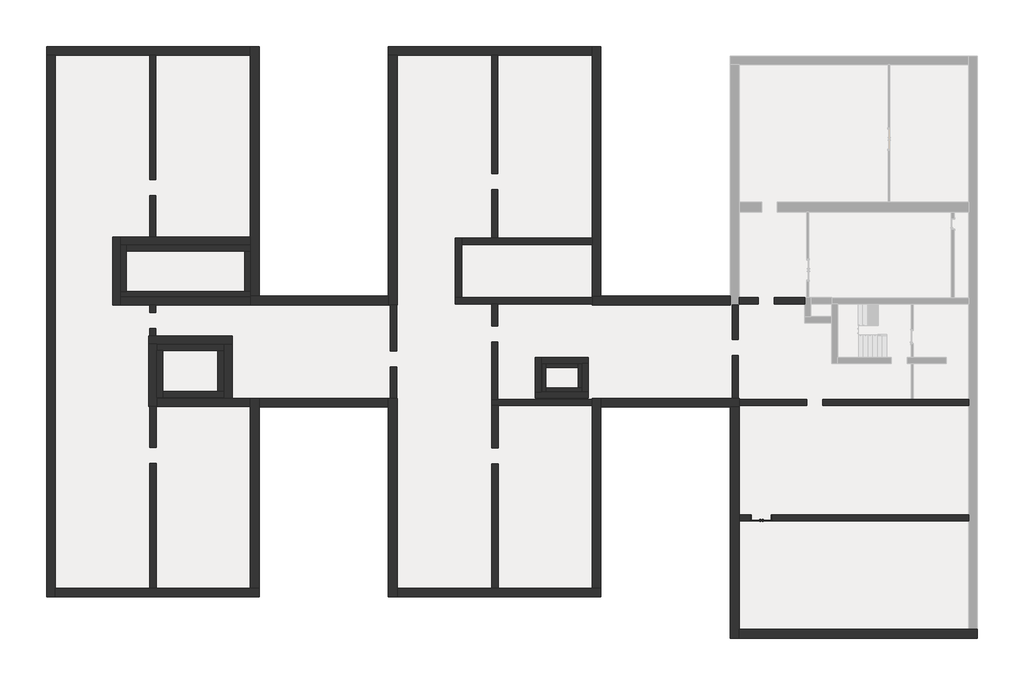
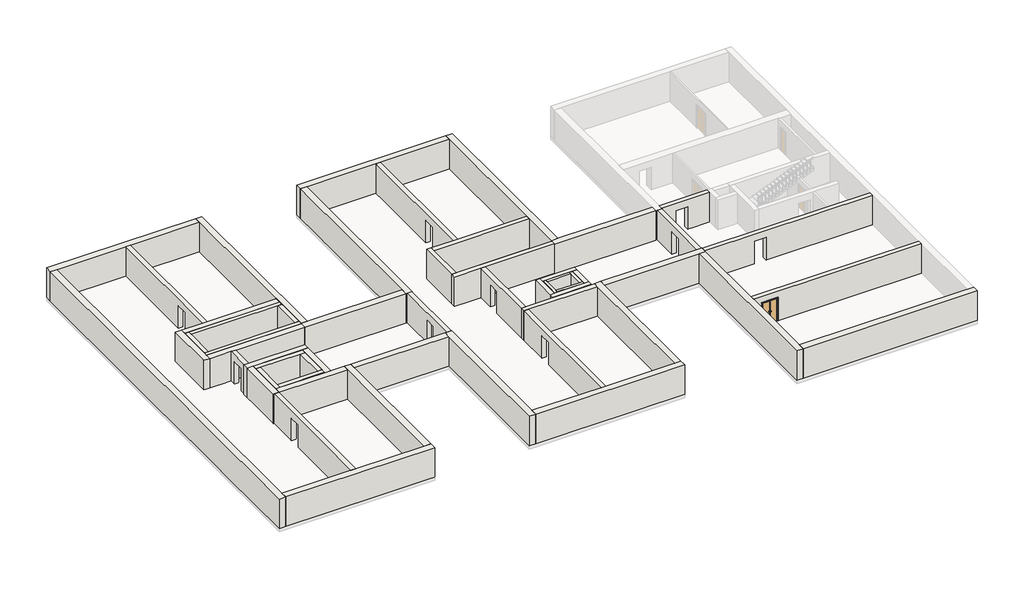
# One storey, part 1 of 2: 55 walls, 1 door.
"""IFC4 building model written with IfcOpenShell, lengths in millimetres."""

from ifc_helpers import new_model, si_unit, frame, origin, place, context, project, spatial, polyline, outline, extrude, faceted_brep, transform, mapped, element, save
from components import door_65913abd

model = new_model("IFC4")

# Units and contexts
model_context = context("Model", 3, world=origin())
ifc_project = project(units=[si_unit("LENGTHUNIT", "METRE", prefix="MILLI")], contexts=[model_context])

# Site, building, storey
site = spatial("IfcSite", under=ifc_project)
building = spatial("IfcBuilding", under=site)
storey = spatial("IfcBuildingStorey", under=building, Name="Подвальный этаж", Elevation=-3000.0)

# Door
placement = place(None, origin())
door_shape = door_65913abd(model_context)
element("IfcDoor", 1, ObjectType="Наружная дверь 2-Навесная - Один проем наружу с порогом - 31173-2003 : ДСН ДКН М2 2100-1300 ГОСТ 31173-2003", at=placement, inside=storey, context=model_context, shape_type="MappedRepresentation", body=[
    mapped(door_shape, transform((6892.6759979, -7305.3629895, -3000.0), x_axis=(1.0, 0.0, 0.0), y_axis=(0.0, 1.0, 0.0), z_axis=(0.0, 0.0, 1.0))),
])

# Walls
element("IfcWall", 2, ObjectType="ADSK_Внутренняя_Бетон_555", at=placement, inside=storey, context=model_context, shape_type="Brep", body=[
    faceted_brep([(-24897.3240021, 6739.6370105, -3000.0), (-24897.3240021, 22549.6370105, -3000.0), (-24897.3240021, 22549.6370105, -300.0), (-24897.3240021, 6739.6370105, -300.0), (-25452.3240021, 6739.6370105, -3000.0), (-25452.3240021, 6739.6370105, -300.0), (-25452.3240021, 21994.6370105, -300.0), (-25452.3240021, 22549.6370105, -300.0), (-25452.3240021, 22549.6370105, -3000.0), (-25452.3240021, 21994.6370105, -3000.0)], [[[0, 1, 2, 3]], [[4, 5, 6, 7, 8, 9]], [[1, 0, 4, 9, 8]], [[2, 1, 8, 7]], [[0, 3, 5, 4]], [[3, 2, 7, 6, 5]]]),
])
element("IfcWall", 3, ObjectType="ADSK_Внутренняя_Бетон_555", at=placement, inside=storey, context=model_context, shape_type="Brep", body=[
    faceted_brep([(-25452.3240021, 22549.6370105, -3000.0), (-38347.3240021, 22549.6370105, -3000.0), (-38347.3240021, 22549.6370105, -300.0), (-25452.3240021, 22549.6370105, -300.0), (-25452.3240021, 21994.6370105, -3000.0), (-25452.3240021, 21994.6370105, -300.0), (-31432.3240021, 21994.6370105, -300.0), (-31812.3240021, 21994.6370105, -300.0), (-37792.3240021, 21994.6370105, -300.0), (-38347.3240021, 21994.6370105, -300.0), (-38347.3240021, 21994.6370105, -3000.0), (-37792.3240021, 21994.6370105, -3000.0), (-31812.3240021, 21994.6370105, -3000.0), (-31432.3240021, 21994.6370105, -3000.0)], [[[0, 1, 2, 3]], [[4, 5, 6, 7, 8, 9, 10, 11, 12, 13]], [[1, 0, 4, 13, 12, 11, 10]], [[0, 3, 5, 4]], [[2, 1, 10, 9]], [[3, 2, 9, 8, 7, 6, 5]]]),
])
element("IfcWall", 4, ObjectType="ADSK_Внутренняя_Бетон_555", at=placement, inside=storey, context=model_context, shape_type="Brep", body=[
    faceted_brep([(-38347.3240021, 21994.6370105, -3000.0), (-38347.3240021, -12320.3629895, -3000.0), (-38347.3240021, -12320.3629895, -300.0), (-38347.3240021, 21994.6370105, -300.0), (-37792.3240021, 21994.6370105, -3000.0), (-37792.3240021, 21994.6370105, -300.0), (-37792.3240021, -11765.3629895, -300.0), (-37792.3240021, -12320.3629895, -300.0), (-37792.3240021, -12320.3629895, -3000.0), (-37792.3240021, -11765.3629895, -3000.0)], [[[0, 1, 2, 3]], [[4, 5, 6, 7, 8, 9]], [[1, 0, 4, 9, 8]], [[0, 3, 5, 4]], [[2, 1, 8, 7]], [[3, 2, 7, 6, 5]]]),
])
element("IfcWall", 5, ObjectType="ADSK_Внутренняя_Бетон_555", at=placement, inside=storey, context=model_context, shape_type="Brep", body=[
    faceted_brep([(-37792.3240021, -12320.3629895, -3000.0), (-24897.3240021, -12320.3629895, -3000.0), (-24897.3240021, -12320.3629895, -300.0), (-37792.3240021, -12320.3629895, -300.0), (-37792.3240021, -11765.3629895, -3000.0), (-37792.3240021, -11765.3629895, -300.0), (-31812.3240021, -11765.3629895, -300.0), (-31412.3240021, -11765.3629895, -300.0), (-25452.3240021, -11765.3629895, -300.0), (-24897.3240021, -11765.3629895, -300.0), (-24897.3240021, -11765.3629895, -3000.0), (-25452.3240021, -11765.3629895, -3000.0), (-31412.3240021, -11765.3629895, -3000.0), (-31812.3240021, -11765.3629895, -3000.0)], [[[0, 1, 2, 3]], [[4, 5, 6, 7, 8, 9, 10, 11, 12, 13]], [[1, 0, 4, 13, 12, 11, 10]], [[0, 3, 5, 4]], [[3, 2, 9, 8, 7, 6, 5]], [[2, 1, 10, 9]]]),
])
element("IfcWall", 6, ObjectType="ADSK_Внутренняя_Бетон_555", at=placement, inside=storey, context=model_context, shape_type="Brep", body=[
    faceted_brep([(-16707.3240021, 264.6370105, -3000.0), (-16707.3240021, -290.3629895, -3000.0), (-16707.3240021, -12320.3629895, -3000.0), (-16707.3240021, -12320.3629895, -300.0), (-16707.3240021, -290.3629895, -300.0), (-16707.3240021, 264.6370105, -300.0), (-16152.3240021, 264.6370105, -3000.0), (-16152.3240021, 264.6370105, -300.0), (-16152.3240021, -11765.3629895, -300.0), (-16152.3240021, -12320.3629895, -300.0), (-16152.3240021, -12320.3629895, -3000.0), (-16152.3240021, -11765.3629895, -3000.0), (-16592.3240021, 264.6370105, -3000.0), (-16192.3240021, 264.6370105, -3000.0), (-16592.3240021, 264.6370105, -300.0), (-16192.3240021, 264.6370105, -300.0)], [[[0, 1, 2, 3, 4, 5]], [[6, 7, 8, 9, 10, 11]], [[2, 1, 0, 12, 13, 6, 11, 10]], [[0, 5, 14, 15, 7, 6, 13, 12]], [[3, 2, 10, 9]], [[5, 4, 3, 9, 8, 7, 15, 14]]]),
])
element("IfcWall", 7, ObjectType="ADSK_Внутренняя_Бетон_555", at=placement, inside=storey, context=model_context, shape_type="Brep", body=[
    faceted_brep([(-16152.3240021, -12320.3629895, -3000.0), (-3257.3240021, -12320.3629895, -3000.0), (-3257.3240021, -12320.3629895, -300.0), (-16152.3240021, -12320.3629895, -300.0), (-16152.3240021, -11765.3629895, -3000.0), (-16152.3240021, -11765.3629895, -300.0), (-10172.3240021, -11765.3629895, -300.0), (-9772.3240021, -11765.3629895, -300.0), (-3812.3240021, -11765.3629895, -300.0), (-3257.3240021, -11765.3629895, -300.0), (-3257.3240021, -11765.3629895, -3000.0), (-3812.3240021, -11765.3629895, -3000.0), (-9772.3240021, -11765.3629895, -3000.0), (-10172.3240021, -11765.3629895, -3000.0)], [[[0, 1, 2, 3]], [[4, 5, 6, 7, 8, 9, 10, 11, 12, 13]], [[1, 0, 4, 13, 12, 11, 10]], [[0, 3, 5, 4]], [[2, 1, 10, 9]], [[3, 2, 9, 8, 7, 6, 5]]]),
])
element("IfcWall", 8, ObjectType="ADSK_Внутренняя_Бетон_555", at=placement, inside=storey, context=model_context, shape_type="Brep", body=[
    faceted_brep([(-3257.3240021, -11765.3629895, -3000.0), (-3257.3240021, -290.3629895, -3000.0), (-3257.3240021, 264.6370105, -3000.0), (-3257.3240021, 264.6370105, -300.0), (-3257.3240021, -290.3629895, -300.0), (-3257.3240021, -11765.3629895, -300.0), (-3812.3240021, -11765.3629895, -3000.0), (-3812.3240021, -11765.3629895, -300.0), (-3812.3240021, -195.3629895, -300.0), (-3812.3240021, 204.6370105, -300.0), (-3812.3240021, 264.6370105, -300.0), (-3812.3240021, 264.6370105, -3000.0), (-3812.3240021, 204.6370105, -3000.0), (-3812.3240021, -195.3629895, -3000.0)], [[[0, 1, 2, 3, 4, 5]], [[6, 7, 8, 9, 10, 11, 12, 13]], [[2, 1, 0, 6, 13, 12, 11]], [[0, 5, 7, 6]], [[3, 2, 11, 10]], [[5, 4, 3, 10, 9, 8, 7]]]),
])
element("IfcWall", 9, ObjectType="ADSK_Внутренняя_Бетон_555", at=placement, inside=storey, context=model_context, shape_type="Brep", body=[
    faceted_brep([(-3257.3240021, -290.3629895, -3000.0), (4932.6759979, -290.3629895, -3000.0), (5487.6759979, -290.3629895, -3000.0), (5487.6759979, -290.3629895, -300.0), (4932.6759979, -290.3629895, -300.0), (-3257.3240021, -290.3629895, -300.0), (-3257.3240021, 264.6370105, -3000.0), (-3257.3240021, 264.6370105, -300.0), (5047.6759979, 264.6370105, -300.0), (5427.6759979, 264.6370105, -300.0), (5487.6759979, 264.6370105, -300.0), (5487.6759979, 264.6370105, -3000.0), (5427.6759979, 264.6370105, -3000.0), (5047.6759979, 264.6370105, -3000.0), (5487.6759979, 204.6370105, -3000.0), (5487.6759979, -175.3629895, -3000.0), (5487.6759979, 204.6370105, -300.0), (5487.6759979, -175.3629895, -300.0)], [[[0, 1, 2, 3, 4, 5]], [[6, 7, 8, 9, 10, 11, 12, 13]], [[2, 1, 0, 6, 13, 12, 11, 14, 15]], [[0, 5, 7, 6]], [[3, 2, 15, 14, 11, 10, 16, 17]], [[5, 4, 3, 17, 16, 10, 9, 8, 7]]]),
])
element("IfcWall", 10, ObjectType="ADSK_Внутренняя_Бетон_555", at=placement, inside=storey, context=model_context, shape_type="Brep", body=[
    faceted_brep([(4932.6759979, -290.3629895, -3000.0), (4932.6759979, -14930.3629895, -3000.0), (4932.6759979, -14930.3629895, -300.0), (4932.6759979, -290.3629895, -300.0), (5487.6759979, -290.3629895, -3000.0), (5487.6759979, -290.3629895, -300.0), (5487.6759979, -7115.3629895, -300.0), (5487.6759979, -7495.3629895, -300.0), (5487.6759979, -14375.3629895, -300.0), (5487.6759979, -14930.3629895, -300.0), (5487.6759979, -14930.3629895, -3000.0), (5487.6759979, -14375.3629895, -3000.0), (5487.6759979, -7495.3629895, -3000.0), (5487.6759979, -7115.3629895, -3000.0)], [[[0, 1, 2, 3]], [[4, 5, 6, 7, 8, 9, 10, 11, 12, 13]], [[1, 0, 4, 13, 12, 11, 10]], [[0, 3, 5, 4]], [[2, 1, 10, 9]], [[3, 2, 9, 8, 7, 6, 5]]]),
])
element("IfcWall", 11, ObjectType="ADSK_Внутренняя_Бетон_555", at=placement, inside=storey, context=model_context, shape_type="Brep", body=[
    faceted_brep([(5487.6759979, -14930.3629895, -3000.0), (20572.6759979, -14930.3629895, -3000.0), (20572.6759979, -14930.3629895, -300.0), (5487.6759979, -14930.3629895, -300.0), (5487.6759979, -14375.3629895, -3000.0), (5487.6759979, -14375.3629895, -300.0), (20017.6759979, -14375.3629895, -300.0), (20572.6759979, -14375.3629895, -300.0), (20572.6759979, -14375.3629895, -3000.0), (20017.6759979, -14375.3629895, -3000.0)], [[[0, 1, 2, 3]], [[4, 5, 6, 7, 8, 9]], [[1, 0, 4, 9, 8]], [[0, 3, 5, 4]], [[2, 1, 8, 7]], [[3, 2, 7, 6, 5]]]),
])
element("IfcWall", 12, ObjectType="ADSK_Внутренняя_Бетон_555", at=placement, inside=storey, context=model_context, shape_type="Brep", body=[
    faceted_brep([(4932.6759979, 6739.6370105, -3000.0), (-3257.3240021, 6739.6370105, -3000.0), (-3812.3240021, 6739.6370105, -3000.0), (-3812.3240021, 6739.6370105, -300.0), (-3257.3240021, 6739.6370105, -300.0), (4932.6759979, 6739.6370105, -300.0), (4932.6759979, 6184.6370105, -3000.0), (4932.6759979, 6184.6370105, -300.0), (-3812.3240021, 6184.6370105, -300.0), (-3812.3240021, 6184.6370105, -3000.0), (-3812.3240021, 6244.6370105, -3000.0), (-3812.3240021, 6644.6370105, -3000.0), (-3812.3240021, 6244.6370105, -300.0), (-3812.3240021, 6644.6370105, -300.0)], [[[0, 1, 2, 3, 4, 5]], [[6, 7, 8, 9]], [[2, 1, 0, 6, 9, 10, 11]], [[0, 5, 7, 6]], [[3, 2, 11, 10, 9, 8, 12, 13]], [[5, 4, 3, 13, 12, 8, 7]]]),
])
element("IfcWall", 13, ObjectType="ADSK_Внутренняя_Бетон_555", at=placement, inside=storey, context=model_context, shape_type="Brep", body=[
    faceted_brep([(-3257.3240021, 6739.6370105, -3000.0), (-3257.3240021, 22549.6370105, -3000.0), (-3257.3240021, 22549.6370105, -300.0), (-3257.3240021, 6739.6370105, -300.0), (-3812.3240021, 6739.6370105, -3000.0), (-3812.3240021, 6739.6370105, -300.0), (-3812.3240021, 10004.6370105, -300.0), (-3812.3240021, 10404.6370105, -300.0), (-3812.3240021, 21994.6370105, -300.0), (-3812.3240021, 22549.6370105, -300.0), (-3812.3240021, 22549.6370105, -3000.0), (-3812.3240021, 21994.6370105, -3000.0), (-3812.3240021, 10404.6370105, -3000.0), (-3812.3240021, 10004.6370105, -3000.0)], [[[0, 1, 2, 3]], [[4, 5, 6, 7, 8, 9, 10, 11, 12, 13]], [[1, 0, 4, 13, 12, 11, 10]], [[0, 3, 5, 4]], [[2, 1, 10, 9]], [[3, 2, 9, 8, 7, 6, 5]]]),
])
element("IfcWall", 14, ObjectType="ADSK_Внутренняя_Бетон_555", at=placement, inside=storey, context=model_context, shape_type="Brep", body=[
    faceted_brep([(-3812.3240021, 22549.6370105, -3000.0), (-16707.3240021, 22549.6370105, -3000.0), (-16707.3240021, 22549.6370105, -300.0), (-3812.3240021, 22549.6370105, -300.0), (-3812.3240021, 21994.6370105, -3000.0), (-3812.3240021, 21994.6370105, -300.0), (-9792.3240021, 21994.6370105, -300.0), (-10172.3240021, 21994.6370105, -300.0), (-16152.3240021, 21994.6370105, -300.0), (-16707.3240021, 21994.6370105, -300.0), (-16707.3240021, 21994.6370105, -3000.0), (-16152.3240021, 21994.6370105, -3000.0), (-10172.3240021, 21994.6370105, -3000.0), (-9792.3240021, 21994.6370105, -3000.0)], [[[0, 1, 2, 3]], [[4, 5, 6, 7, 8, 9, 10, 11, 12, 13]], [[1, 0, 4, 13, 12, 11, 10]], [[0, 3, 5, 4]], [[2, 1, 10, 9]], [[3, 2, 9, 8, 7, 6, 5]]]),
])
element("IfcWall", 15, ObjectType="ADSK_Внутренняя_Бетон_555", at=placement, inside=storey, context=model_context, shape_type="Brep", body=[
    faceted_brep([(-16707.3240021, 21994.6370105, -3000.0), (-16707.3240021, 6739.6370105, -3000.0), (-16707.3240021, 6184.6370105, -3000.0), (-16707.3240021, 6184.6370105, -300.0), (-16707.3240021, 6739.6370105, -300.0), (-16707.3240021, 21994.6370105, -300.0), (-16152.3240021, 21994.6370105, -3000.0), (-16152.3240021, 21994.6370105, -300.0), (-16152.3240021, 6184.6370105, -300.0), (-16152.3240021, 6184.6370105, -3000.0), (-16192.3240021, 6184.6370105, -3000.0), (-16592.3240021, 6184.6370105, -3000.0), (-16192.3240021, 6184.6370105, -300.0), (-16592.3240021, 6184.6370105, -300.0)], [[[0, 1, 2, 3, 4, 5]], [[6, 7, 8, 9]], [[2, 1, 0, 6, 9, 10, 11]], [[0, 5, 7, 6]], [[3, 2, 11, 10, 9, 8, 12, 13]], [[5, 4, 3, 13, 12, 8, 7]]]),
])
element("IfcWall", 16, ObjectType="ADSK_Внутренняя_Бетон_555", at=placement, inside=storey, context=model_context, shape_type="Brep", body=[
    faceted_brep([(-16707.3240021, 6739.6370105, -3000.0), (-24897.3240021, 6739.6370105, -3000.0), (-25452.3240021, 6739.6370105, -3000.0), (-25452.3240021, 6739.6370105, -300.0), (-24897.3240021, 6739.6370105, -300.0), (-16707.3240021, 6739.6370105, -300.0), (-16707.3240021, 6184.6370105, -3000.0), (-16707.3240021, 6184.6370105, -300.0), (-25452.3240021, 6184.6370105, -300.0), (-25452.3240021, 6184.6370105, -3000.0), (-25452.3240021, 6684.6370105, -3000.0), (-25452.3240021, 6684.6370105, -300.0)], [[[0, 1, 2, 3, 4, 5]], [[6, 7, 8, 9]], [[2, 1, 0, 6, 9, 10]], [[0, 5, 7, 6]], [[3, 2, 10, 9, 8, 11]], [[5, 4, 3, 11, 8, 7]]]),
])
element("IfcWall", 17, ObjectType="ADSK_Внутренняя_Кирпич_380+20", at=placement, inside=storey, context=model_context, shape_type="SweptSolid", body=[
    extrude(outline(polyline([(2259.6370105, -930.0), (2259.6370105, -3000.0), (264.6370105, -3000.0), (264.6370105, -300.0), (6184.6370105, -300.0), (6184.6370105, -3000.0), (3269.6370105, -3000.0), (3269.6370105, -930.0), (2259.6370105, -930.0)])), frame((-16592.3240021, 0.0, 0.0), z_axis=(1.0, 0.0, 0.0), x_axis=(0.0, 1.0, 0.0)), (0.0, 0.0, 1.0), 400.0),
])
element("IfcWall", 18, ObjectType="ADSK_Внутренняя_Кирпич_380+20", at=placement, inside=storey, context=model_context, shape_type="SweptSolid", body=[
    extrude(outline(polyline([(-3850.3629895, -930.0), (-3850.3629895, -3000.0), (-11765.3629895, -3000.0), (-11765.3629895, -300.0), (-235.3629895, -300.0), (-235.3629895, -3000.0), (-2840.3629895, -3000.0), (-2840.3629895, -930.0), (-3850.3629895, -930.0)])), frame((-31812.3240021, 0.0, 0.0), z_axis=(1.0, 0.0, 0.0), x_axis=(0.0, 1.0, 0.0)), (0.0, 0.0, 1.0), 400.0),
])
element("IfcWall", 19, ObjectType="ADSK_Внутренняя_Бетон_380", at=placement, inside=storey, context=model_context, shape_type="SweptSolid", body=[
    extrude(outline(polyline([(21994.6370105, -3000.0), (14119.6370105, -3000.0), (14119.6370105, -930.0), (13109.6370105, -930.0), (13109.6370105, -3000.0), (10464.6370105, -3000.0), (10464.6370105, -300.0), (21994.6370105, -300.0), (21994.6370105, -3000.0)])), frame((-31812.3240021, 0.0, 0.0), z_axis=(1.0, 0.0, 0.0), x_axis=(0.0, 1.0, 0.0)), (0.0, 0.0, 1.0), 380.0),
])
element("IfcWall", 20, ObjectType="ADSK_Внутренняя_Кирпич_380+20", at=placement, inside=storey, context=model_context, shape_type="Brep", body=[
    faceted_brep([(-3812.3240021, 6644.6370105, -3000.0), (-12072.3240021, 6644.6370105, -3000.0), (-12472.3240021, 6644.6370105, -3000.0), (-12472.3240021, 6644.6370105, -300.0), (-12072.3240021, 6644.6370105, -300.0), (-3812.3240021, 6644.6370105, -300.0), (-3812.3240021, 6244.6370105, -3000.0), (-3812.3240021, 6244.6370105, -300.0), (-9792.3240021, 6244.6370105, -300.0), (-10172.3240021, 6244.6370105, -300.0), (-12472.3240021, 6244.6370105, -300.0), (-12472.3240021, 6244.6370105, -3000.0), (-10172.3240021, 6244.6370105, -3000.0), (-9792.3240021, 6244.6370105, -3000.0)], [[[0, 1, 2, 3, 4, 5]], [[6, 7, 8, 9, 10, 11, 12, 13]], [[2, 1, 0, 6, 13, 12, 11]], [[0, 5, 7, 6]], [[3, 2, 11, 10]], [[5, 4, 3, 10, 9, 8, 7]]]),
])
element("IfcWall", 21, ObjectType="ADSK_Внутренняя_Кирпич_380+20", at=placement, inside=storey, context=model_context, shape_type="Brep", body=[
    faceted_brep([(-12072.3240021, 6644.6370105, -3000.0), (-12072.3240021, 10004.6370105, -3000.0), (-12072.3240021, 10404.6370105, -3000.0), (-12072.3240021, 10404.6370105, -300.0), (-12072.3240021, 10004.6370105, -300.0), (-12072.3240021, 6644.6370105, -300.0), (-12472.3240021, 6644.6370105, -3000.0), (-12472.3240021, 6644.6370105, -300.0), (-12472.3240021, 10404.6370105, -300.0), (-12472.3240021, 10404.6370105, -3000.0)], [[[0, 1, 2, 3, 4, 5]], [[6, 7, 8, 9]], [[2, 1, 0, 6, 9]], [[0, 5, 7, 6]], [[3, 2, 9, 8]], [[5, 4, 3, 8, 7]]]),
])
element("IfcWall", 22, ObjectType="ADSK_Внутренняя_Кирпич_380+20", at=placement, inside=storey, context=model_context, shape_type="Brep", body=[
    faceted_brep([(-12072.3240021, 10004.6370105, -3000.0), (-3812.3240021, 10004.6370105, -3000.0), (-3812.3240021, 10004.6370105, -300.0), (-12072.3240021, 10004.6370105, -300.0), (-12072.3240021, 10404.6370105, -3000.0), (-12072.3240021, 10404.6370105, -300.0), (-10172.3240021, 10404.6370105, -300.0), (-9792.3240021, 10404.6370105, -300.0), (-3812.3240021, 10404.6370105, -300.0), (-3812.3240021, 10404.6370105, -3000.0), (-9792.3240021, 10404.6370105, -3000.0), (-10172.3240021, 10404.6370105, -3000.0)], [[[0, 1, 2, 3]], [[4, 5, 6, 7, 8, 9, 10, 11]], [[1, 0, 4, 11, 10, 9]], [[0, 3, 5, 4]], [[2, 1, 9, 8]], [[3, 2, 8, 7, 6, 5]]]),
])
element("IfcWall", 23, ObjectType="ADSK_Внутренняя_Бетон_380", at=placement, inside=storey, context=model_context, shape_type="SweptSolid", body=[
    extrude(outline(polyline([(21994.6370105, -3000.0), (14509.6370105, -3000.0), (14509.6370105, -930.0), (13499.6370105, -930.0), (13499.6370105, -3000.0), (10404.6370105, -3000.0), (10404.6370105, -300.0), (21994.6370105, -300.0), (21994.6370105, -3000.0)])), frame((-10172.3240021, 0.0, 0.0), z_axis=(1.0, 0.0, 0.0), x_axis=(0.0, 1.0, 0.0)), (0.0, 0.0, 1.0), 380.0),
])
element("IfcWall", 24, ObjectType="ADSK_Внутренняя_Кирпич_380+20", at=placement, inside=storey, context=model_context, shape_type="Brep", body=[
    faceted_brep([(-3812.3240021, 204.6370105, -3000.0), (-9792.3240021, 204.6370105, -3000.0), (-10172.3240021, 204.6370105, -3000.0), (-10172.3240021, 204.6370105, -300.0), (-9792.3240021, 204.6370105, -300.0), (-3812.3240021, 204.6370105, -300.0), (-3812.3240021, -195.3629895, -3000.0), (-3812.3240021, -195.3629895, -300.0), (-9772.3240021, -195.3629895, -300.0), (-10172.3240021, -195.3629895, -300.0), (-10172.3240021, -195.3629895, -3000.0), (-9772.3240021, -195.3629895, -3000.0)], [[[0, 1, 2, 3, 4, 5]], [[6, 7, 8, 9, 10, 11]], [[2, 1, 0, 6, 11, 10]], [[0, 5, 7, 6]], [[3, 2, 10, 9]], [[5, 4, 3, 9, 8, 7]]]),
])
element("IfcWall", 25, ObjectType="ADSK_Внутренняя_Кирпич_380+20", at=placement, inside=storey, context=model_context, shape_type="SweptSolid", body=[
    extrude(outline(polyline([(-3900.3629895, -930.0), (-3900.3629895, -3000.0), (-11765.3629895, -3000.0), (-11765.3629895, -300.0), (-195.3629895, -300.0), (-195.3629895, -3000.0), (-2890.3629895, -3000.0), (-2890.3629895, -930.0), (-3900.3629895, -930.0)])), frame((-10172.3240021, 0.0, 0.0), z_axis=(1.0, 0.0, 0.0), x_axis=(0.0, 1.0, 0.0)), (0.0, 0.0, 1.0), 400.0),
])
element("IfcWall", 26, ObjectType="ADSK_Внутренняя_Кирпич_380", at=placement, inside=storey, context=model_context, shape_type="SweptSolid", body=[
    extrude(outline(polyline([(6244.6370105, -3000.0), (4849.6370105, -3000.0), (4849.6370105, -930.0), (3839.6370105, -930.0), (3839.6370105, -3000.0), (204.6370105, -3000.0), (204.6370105, -300.0), (6244.6370105, -300.0), (6244.6370105, -3000.0)])), frame((-10172.3240021, 0.0, 0.0), z_axis=(1.0, 0.0, 0.0), x_axis=(0.0, 1.0, 0.0)), (0.0, 0.0, 1.0), 380.0),
])
element("IfcWall", 27, ObjectType="ADSK_Внутренняя_Кирпич_380+20", at=placement, inside=storey, context=model_context, shape_type="SweptSolid", body=[
    extrude(outline(polyline([(-3000.0, 5487.6759979), (-3000.0, 6705.1759979), (-930.0, 6705.1759979), (-930.0, 7715.1759979), (-3000.0, 7715.1759979), (-3000.0, 9627.6759979), (-300.0, 9627.6759979), (-300.0, 5487.6759979), (-3000.0, 5487.6759979)])), frame((0.0, 6244.6370105, 0.0), z_axis=(0.0, 1.0, 0.0), x_axis=(0.0, 0.0, 1.0)), (0.0, 0.0, 1.0), 400.0),
])
element("IfcWall", 28, ObjectType="ADSK_Внутренняя_Кирпич_380", at=placement, inside=storey, context=model_context, shape_type="SweptSolid", body=[
    extrude(outline(polyline([(2979.6370105, -930.0), (2979.6370105, -3000.0), (264.6370105, -3000.0), (264.6370105, -300.0), (6184.6370105, -300.0), (6184.6370105, -3000.0), (3989.6370105, -3000.0), (3989.6370105, -930.0), (2979.6370105, -930.0)])), frame((5047.6759979, 0.0, 0.0), z_axis=(1.0, 0.0, 0.0), x_axis=(0.0, 1.0, 0.0)), (0.0, 0.0, 1.0), 380.0),
])
element("IfcWall", 29, ObjectType="ADSK_Внутренняя_Бетон_380", at=placement, inside=storey, context=model_context, shape_type="Brep", body=[
    faceted_brep([(5487.6759979, -175.3629895, -3000.0), (9782.6759979, -175.3629895, -3000.0), (9782.6759979, -175.3629895, -930.0), (10792.6759979, -175.3629895, -930.0), (10792.6759979, -175.3629895, -3000.0), (20017.6759979, -175.3629895, -3000.0), (20017.6759979, -175.3629895, -300.0), (5487.6759979, -175.3629895, -300.0), (9782.6759979, 204.6370105, -930.0), (9782.6759979, 204.6370105, -3000.0), (5487.6759979, 204.6370105, -3000.0), (5487.6759979, 204.6370105, -300.0), (16372.6759979, 204.6370105, -300.0), (16497.6759979, 204.6370105, -300.0), (20017.6759979, 204.6370105, -300.0), (20017.6759979, 204.6370105, -3000.0), (16497.6759979, 204.6370105, -3000.0), (16372.6759979, 204.6370105, -3000.0), (10792.6759979, 204.6370105, -3000.0), (10792.6759979, 204.6370105, -930.0)], [[[0, 1, 2, 3, 4, 5, 6, 7]], [[8, 9, 10, 11, 12, 13, 14, 15, 16, 17, 18, 19]], [[10, 9, 1, 0]], [[18, 17, 16, 15, 5, 4]], [[0, 7, 11, 10]], [[6, 5, 15, 14]], [[7, 6, 14, 13, 12, 11]], [[4, 3, 19, 18]], [[2, 1, 9, 8]], [[3, 2, 8, 19]]]),
])
element("IfcWall", 30, ObjectType="ADSK_Внутренняя_Кирпич_380", at=placement, inside=storey, context=model_context, shape_type="SweptSolid", body=[
    extrude(outline(polyline([(-300.0, 5487.6759979), (-3000.0, 5487.6759979), (-3000.0, 6222.6759979), (-880.0, 6222.6759979), (-880.0, 7562.6759979), (-3000.0, 7562.6759979), (-3000.0, 20017.6759979), (-300.0, 20017.6759979), (-300.0, 5487.6759979)])), frame((0.0, -7495.3629895, 0.0), z_axis=(0.0, 1.0, 0.0), x_axis=(0.0, 0.0, 1.0)), (0.0, 0.0, 1.0), 380.0),
])
element("IfcWall", 31, ObjectType="ADSK_Внутренняя_Кирпич_380", at=placement, inside=storey, context=model_context, shape_type="Brep", body=[
    faceted_brep([(-27132.2740021, 3672.3062639, -3000.0), (-31364.9054166, 3672.3062639, -3000.0), (-31364.9054166, 3672.3062639, -300.0), (-27132.2740021, 3672.3062639, -300.0), (-27132.2740021, 3292.3062639, -3000.0), (-27132.2740021, 3292.3062639, -300.0), (-27512.2740021, 3292.3062639, -300.0), (-30984.9054166, 3292.3062639, -300.0), (-31364.9054166, 3292.3062639, -300.0), (-31364.9054166, 3292.3062639, -3000.0), (-30984.9054166, 3292.3062639, -3000.0), (-27512.2740021, 3292.3062639, -3000.0)], [[[0, 1, 2, 3]], [[4, 5, 6, 7, 8, 9, 10, 11]], [[1, 0, 4, 11, 10, 9]], [[2, 1, 9, 8]], [[0, 3, 5, 4]], [[3, 2, 8, 7, 6, 5]]]),
])
element("IfcWall", 32, ObjectType="ADSK_Внутренняя_Кирпич_380", at=placement, inside=storey, context=model_context, shape_type="Brep", body=[
    faceted_brep([(-31364.9054166, 3292.3062639, -3000.0), (-31364.9054166, 322.1996579, -3000.0), (-31364.9054166, 322.1996579, -300.0), (-31364.9054166, 3292.3062639, -300.0), (-30984.9054166, 3292.3062639, -3000.0), (-30984.9054166, 3292.3062639, -300.0), (-30984.9054166, 702.1996579, -300.0), (-30984.9054166, 322.1996579, -300.0), (-30984.9054166, 322.1996579, -3000.0), (-30984.9054166, 702.1996579, -3000.0)], [[[0, 1, 2, 3]], [[4, 5, 6, 7, 8, 9]], [[1, 0, 4, 9, 8]], [[0, 3, 5, 4]], [[2, 1, 8, 7]], [[3, 2, 7, 6, 5]]]),
])
element("IfcWall", 33, ObjectType="ADSK_Внутренняя_Кирпич_380", at=placement, inside=storey, context=model_context, shape_type="Brep", body=[
    faceted_brep([(-30984.9054166, 322.1996579, -3000.0), (-27132.2740021, 322.1996579, -3000.0), (-27132.2740021, 322.1996579, -300.0), (-30984.9054166, 322.1996579, -300.0), (-30984.9054166, 702.1996579, -3000.0), (-30984.9054166, 702.1996579, -300.0), (-27512.2740021, 702.1996579, -300.0), (-27132.2740021, 702.1996579, -300.0), (-27132.2740021, 702.1996579, -3000.0), (-27512.2740021, 702.1996579, -3000.0)], [[[0, 1, 2, 3]], [[4, 5, 6, 7, 8, 9]], [[1, 0, 4, 9, 8]], [[0, 3, 5, 4]], [[2, 1, 8, 7]], [[3, 2, 7, 6, 5]]]),
])
element("IfcWall", 34, ObjectType="ADSK_Внутренняя_Кирпич_380", at=placement, inside=storey, context=model_context, shape_type="SweptSolid", body=[
    extrude(outline(polyline([(-27132.2740021, 3292.3062639), (-27132.2740021, 702.1996579), (-27512.2740021, 702.1996579), (-27512.2740021, 3292.3062639), (-27132.2740021, 3292.3062639)])), frame((0.0, 0.0, -3000.0), z_axis=(0.0, 0.0, 1.0), x_axis=(1.0, 0.0, 0.0)), (0.0, 0.0, 1.0), 2700.0),
])
element("IfcWall", 35, ObjectType="ADSK_Внутренняя_Бетон_500", at=placement, inside=storey, context=model_context, shape_type="Brep", body=[
    faceted_brep([(-26602.3240021, 4204.6370105, -3000.0), (-31442.3240021, 4204.6370105, -3000.0), (-31822.3240021, 4204.6370105, -3000.0), (-31872.3240021, 4204.6370105, -3000.0), (-31872.3240021, 4204.6370105, -300.0), (-31822.3240021, 4204.6370105, -300.0), (-31442.3240021, 4204.6370105, -300.0), (-26602.3240021, 4204.6370105, -300.0), (-26602.3240021, 3704.6370105, -3000.0), (-26602.3240021, 3704.6370105, -300.0), (-27102.3240021, 3704.6370105, -300.0), (-31372.3240021, 3704.6370105, -300.0), (-31872.3240021, 3704.6370105, -300.0), (-31872.3240021, 3704.6370105, -3000.0), (-31372.3240021, 3704.6370105, -3000.0), (-27102.3240021, 3704.6370105, -3000.0)], [[[0, 1, 2, 3, 4, 5, 6, 7]], [[8, 9, 10, 11, 12, 13, 14, 15]], [[3, 2, 1, 0, 8, 15, 14, 13]], [[4, 3, 13, 12]], [[0, 7, 9, 8]], [[7, 6, 5, 4, 12, 11, 10, 9]]]),
])
element("IfcWall", 36, ObjectType="ADSK_Внутренняя_Бетон_500", at=placement, inside=storey, context=model_context, shape_type="Brep", body=[
    faceted_brep([(-31872.3240021, 3704.6370105, -3000.0), (-31872.3240021, -235.3629895, -3000.0), (-31872.3240021, -235.3629895, -300.0), (-31872.3240021, 3704.6370105, -300.0), (-31372.3240021, 3704.6370105, -3000.0), (-31372.3240021, 3704.6370105, -300.0), (-31372.3240021, 264.6370105, -300.0), (-31372.3240021, -235.3629895, -300.0), (-31372.3240021, -235.3629895, -3000.0), (-31372.3240021, 264.6370105, -3000.0), (-31412.3240021, -235.3629895, -3000.0), (-31812.3240021, -235.3629895, -3000.0), (-31412.3240021, -235.3629895, -300.0), (-31812.3240021, -235.3629895, -300.0)], [[[0, 1, 2, 3]], [[4, 5, 6, 7, 8, 9]], [[1, 0, 4, 9, 8, 10, 11]], [[0, 3, 5, 4]], [[2, 1, 11, 10, 8, 7, 12, 13]], [[3, 2, 13, 12, 7, 6, 5]]]),
])
element("IfcWall", 37, ObjectType="ADSK_Внутренняя_Бетон_500", at=placement, inside=storey, context=model_context, shape_type="Brep", body=[
    faceted_brep([(-31372.3240021, -235.3629895, -3000.0), (-25452.3240021, -235.3629895, -3000.0), (-25452.3240021, -235.3629895, -300.0), (-31372.3240021, -235.3629895, -300.0), (-31372.3240021, 264.6370105, -3000.0), (-31372.3240021, 264.6370105, -300.0), (-27102.3240021, 264.6370105, -300.0), (-26602.3240021, 264.6370105, -300.0), (-25452.3240021, 264.6370105, -300.0), (-25452.3240021, 264.6370105, -3000.0), (-26602.3240021, 264.6370105, -3000.0), (-27102.3240021, 264.6370105, -3000.0)], [[[0, 1, 2, 3]], [[4, 5, 6, 7, 8, 9, 10, 11]], [[1, 0, 4, 11, 10, 9]], [[0, 3, 5, 4]], [[2, 1, 9, 8]], [[3, 2, 8, 7, 6, 5]]]),
])
element("IfcWall", 38, ObjectType="ADSK_Внутренняя_Бетон_500", at=placement, inside=storey, context=model_context, shape_type="SweptSolid", body=[
    extrude(outline(polyline([(-26602.3240021, 3704.6370105), (-26602.3240021, 264.6370105), (-27102.3240021, 264.6370105), (-27102.3240021, 3704.6370105), (-26602.3240021, 3704.6370105)])), frame((0.0, 0.0, -3000.0), z_axis=(0.0, 0.0, 1.0), x_axis=(1.0, 0.0, 0.0)), (0.0, 0.0, 1.0), 2700.0),
])
element("IfcWall", 39, ObjectType="ADSK_Внутренняя_Бетон_555", at=placement, inside=storey, context=model_context, shape_type="Brep", body=[
    faceted_brep([(-24897.3240021, -11765.3629895, -3000.0), (-24897.3240021, -290.3629895, -3000.0), (-24897.3240021, 264.6370105, -3000.0), (-24897.3240021, 264.6370105, -300.0), (-24897.3240021, -290.3629895, -300.0), (-24897.3240021, -11765.3629895, -300.0), (-25452.3240021, -11765.3629895, -3000.0), (-25452.3240021, -11765.3629895, -300.0), (-25452.3240021, -235.3629895, -300.0), (-25452.3240021, 264.6370105, -300.0), (-25452.3240021, 264.6370105, -3000.0), (-25452.3240021, -235.3629895, -3000.0)], [[[0, 1, 2, 3, 4, 5]], [[6, 7, 8, 9, 10, 11]], [[2, 1, 0, 6, 11, 10]], [[0, 5, 7, 6]], [[3, 2, 10, 9]], [[5, 4, 3, 9, 8, 7]]]),
])
element("IfcWall", 40, ObjectType="ADSK_Внутренняя_Бетон_555", at=placement, inside=storey, context=model_context, shape_type="SweptSolid", body=[
    extrude(outline(polyline([(-16707.3240021, -290.3629895), (-24897.3240021, -290.3629895), (-24897.3240021, 264.6370105), (-16707.3240021, 264.6370105), (-16707.3240021, -290.3629895)])), frame((0.0, 0.0, -3000.0), z_axis=(0.0, 0.0, 1.0), x_axis=(1.0, 0.0, 0.0)), (0.0, 0.0, 1.0), 2700.0),
])
element("IfcWall", 41, ObjectType="ADSK_Внутренняя_Бетон_500", at=placement, inside=storey, context=model_context, shape_type="Brep", body=[
    faceted_brep([(-34172.3240021, 10464.6370105, -3000.0), (-34172.3240021, 6184.6370105, -3000.0), (-34172.3240021, 6184.6370105, -300.0), (-34172.3240021, 10464.6370105, -300.0), (-33672.3240021, 10464.6370105, -3000.0), (-33672.3240021, 10464.6370105, -300.0), (-33672.3240021, 9964.6370105, -300.0), (-33672.3240021, 6684.6370105, -300.0), (-33672.3240021, 6184.6370105, -300.0), (-33672.3240021, 6184.6370105, -3000.0), (-33672.3240021, 6684.6370105, -3000.0), (-33672.3240021, 9964.6370105, -3000.0)], [[[0, 1, 2, 3]], [[4, 5, 6, 7, 8, 9, 10, 11]], [[1, 0, 4, 11, 10, 9]], [[2, 1, 9, 8]], [[0, 3, 5, 4]], [[3, 2, 8, 7, 6, 5]]]),
])
element("IfcWall", 42, ObjectType="ADSK_Внутренняя_Бетон_500", at=placement, inside=storey, context=model_context, shape_type="Brep", body=[
    faceted_brep([(-33672.3240021, 6184.6370105, -3000.0), (-31822.3240021, 6184.6370105, -3000.0), (-31442.3240021, 6184.6370105, -3000.0), (-25452.3240021, 6184.6370105, -3000.0), (-25452.3240021, 6184.6370105, -300.0), (-31442.3240021, 6184.6370105, -300.0), (-31822.3240021, 6184.6370105, -300.0), (-33672.3240021, 6184.6370105, -300.0), (-33672.3240021, 6684.6370105, -3000.0), (-33672.3240021, 6684.6370105, -300.0), (-25452.3240021, 6684.6370105, -300.0), (-25452.3240021, 6684.6370105, -3000.0)], [[[0, 1, 2, 3, 4, 5, 6, 7]], [[8, 9, 10, 11]], [[3, 2, 1, 0, 8, 11]], [[0, 7, 9, 8]], [[4, 3, 11, 10]], [[7, 6, 5, 4, 10, 9]]]),
])
element("IfcWall", 43, ObjectType="ADSK_Внутренняя_Кирпич_356", at=placement, inside=storey, context=model_context, shape_type="Brep", body=[
    faceted_brep([(-25461.8240021, 7040.6000551, -3000.0), (-25817.8240021, 7040.6000551, -3000.0), (-33316.3240021, 7040.6000551, -3000.0), (-33672.3240021, 7040.6000551, -3000.0), (-33672.3240021, 7040.6000551, -300.0), (-33316.3240021, 7040.6000551, -300.0), (-25817.8240021, 7040.6000551, -300.0), (-25461.8240021, 7040.6000551, -300.0), (-25461.8240021, 6684.6000551, -3000.0), (-25461.8240021, 6684.6000551, -300.0), (-33672.3240021, 6684.6000551, -300.0), (-33672.3240021, 6684.6000551, -3000.0)], [[[0, 1, 2, 3, 4, 5, 6, 7]], [[8, 9, 10, 11]], [[3, 2, 1, 0, 8, 11]], [[4, 3, 11, 10]], [[0, 7, 9, 8]], [[7, 6, 5, 4, 10, 9]]]),
])
element("IfcWall", 44, ObjectType="ADSK_Внутренняя_Кирпич_356", at=placement, inside=storey, context=model_context, shape_type="Brep", body=[
    faceted_brep([(-33316.3240021, 7040.6000551, -3000.0), (-33316.3240021, 9608.6370105, -3000.0), (-33316.3240021, 9964.6370105, -3000.0), (-33316.3240021, 9964.6370105, -300.0), (-33316.3240021, 9608.6370105, -300.0), (-33316.3240021, 7040.6000551, -300.0), (-33672.3240021, 7040.6000551, -3000.0), (-33672.3240021, 7040.6000551, -300.0), (-33672.3240021, 9964.6370105, -300.0), (-33672.3240021, 9964.6370105, -3000.0)], [[[0, 1, 2, 3, 4, 5]], [[6, 7, 8, 9]], [[2, 1, 0, 6, 9]], [[0, 5, 7, 6]], [[3, 2, 9, 8]], [[5, 4, 3, 8, 7]]]),
])
element("IfcWall", 45, ObjectType="ADSK_Внутренняя_Кирпич_356", at=placement, inside=storey, context=model_context, shape_type="Brep", body=[
    faceted_brep([(-33316.3240021, 9608.6370105, -3000.0), (-25817.8240021, 9608.6370105, -3000.0), (-25461.8240021, 9608.6370105, -3000.0), (-25461.8240021, 9608.6370105, -300.0), (-25817.8240021, 9608.6370105, -300.0), (-33316.3240021, 9608.6370105, -300.0), (-33316.3240021, 9964.6370105, -3000.0), (-33316.3240021, 9964.6370105, -300.0), (-25461.8240021, 9964.6370105, -300.0), (-25461.8240021, 9964.6370105, -3000.0)], [[[0, 1, 2, 3, 4, 5]], [[6, 7, 8, 9]], [[2, 1, 0, 6, 9]], [[0, 5, 7, 6]], [[3, 2, 9, 8]], [[5, 4, 3, 8, 7]]]),
])
element("IfcWall", 46, ObjectType="ADSK_Внутренняя_Кирпич_356", at=placement, inside=storey, context=model_context, shape_type="SweptSolid", body=[
    extrude(outline(polyline([(-25461.8240021, 9608.6370105), (-25461.8240021, 7040.6000551), (-25817.8240021, 7040.6000551), (-25817.8240021, 9608.6370105), (-25461.8240021, 9608.6370105)])), frame((0.0, 0.0, -3000.0), z_axis=(0.0, 0.0, 1.0), x_axis=(1.0, 0.0, 0.0)), (0.0, 0.0, 1.0), 2700.0),
])
element("IfcWall", 47, ObjectType="ADSK_Внутренняя_Бетон_500", at=placement, inside=storey, context=model_context, shape_type="Brep", body=[
    faceted_brep([(-25461.8240021, 10464.6370105, -3000.0), (-31432.3240021, 10464.6370105, -3000.0), (-31812.3240021, 10464.6370105, -3000.0), (-33672.3240021, 10464.6370105, -3000.0), (-33672.3240021, 10464.6370105, -300.0), (-31812.3240021, 10464.6370105, -300.0), (-31432.3240021, 10464.6370105, -300.0), (-25461.8240021, 10464.6370105, -300.0), (-25461.8240021, 9964.6370105, -3000.0), (-25461.8240021, 9964.6370105, -300.0), (-33672.3240021, 9964.6370105, -300.0), (-33672.3240021, 9964.6370105, -3000.0)], [[[0, 1, 2, 3, 4, 5, 6, 7]], [[8, 9, 10, 11]], [[3, 2, 1, 0, 8, 11]], [[0, 7, 9, 8]], [[4, 3, 11, 10]], [[7, 6, 5, 4, 10, 9]]]),
])
element("IfcWall", 48, ObjectType="ADSK_Внутренняя_Бетон_380", at=placement, inside=storey, context=model_context, shape_type="Brep", body=[
    faceted_brep([(-4072.3240021, 674.6370105, -3000.0), (-4452.3240021, 674.6370105, -3000.0), (-7022.3240021, 674.6370105, -3000.0), (-7402.3240021, 674.6370105, -3000.0), (-7402.3240021, 674.6370105, -300.0), (-7022.3240021, 674.6370105, -300.0), (-4452.3240021, 674.6370105, -300.0), (-4072.3240021, 674.6370105, -300.0), (-4072.3240021, 294.6370105, -3000.0), (-4072.3240021, 294.6370105, -300.0), (-7402.3240021, 294.6370105, -300.0), (-7402.3240021, 294.6370105, -3000.0)], [[[0, 1, 2, 3, 4, 5, 6, 7]], [[8, 9, 10, 11]], [[3, 2, 1, 0, 8, 11]], [[4, 3, 11, 10]], [[0, 7, 9, 8]], [[7, 6, 5, 4, 10, 9]]]),
])
element("IfcWall", 49, ObjectType="ADSK_Внутренняя_Бетон_380", at=placement, inside=storey, context=model_context, shape_type="Brep", body=[
    faceted_brep([(-7022.3240021, 674.6370105, -3000.0), (-7022.3240021, 2474.6370105, -3000.0), (-7022.3240021, 2854.6370105, -3000.0), (-7022.3240021, 2854.6370105, -300.0), (-7022.3240021, 2474.6370105, -300.0), (-7022.3240021, 674.6370105, -300.0), (-7402.3240021, 674.6370105, -3000.0), (-7402.3240021, 674.6370105, -300.0), (-7402.3240021, 2854.6370105, -300.0), (-7402.3240021, 2854.6370105, -3000.0)], [[[0, 1, 2, 3, 4, 5]], [[6, 7, 8, 9]], [[2, 1, 0, 6, 9]], [[0, 5, 7, 6]], [[3, 2, 9, 8]], [[5, 4, 3, 8, 7]]]),
])
element("IfcWall", 50, ObjectType="ADSK_Внутренняя_Бетон_380", at=placement, inside=storey, context=model_context, shape_type="Brep", body=[
    faceted_brep([(-7022.3240021, 2474.6370105, -3000.0), (-4452.3240021, 2474.6370105, -3000.0), (-4072.3240021, 2474.6370105, -3000.0), (-4072.3240021, 2474.6370105, -300.0), (-4452.3240021, 2474.6370105, -300.0), (-7022.3240021, 2474.6370105, -300.0), (-7022.3240021, 2854.6370105, -3000.0), (-7022.3240021, 2854.6370105, -300.0), (-4072.3240021, 2854.6370105, -300.0), (-4072.3240021, 2854.6370105, -3000.0)], [[[0, 1, 2, 3, 4, 5]], [[6, 7, 8, 9]], [[2, 1, 0, 6, 9]], [[0, 5, 7, 6]], [[3, 2, 9, 8]], [[5, 4, 3, 8, 7]]]),
])
element("IfcWall", 51, ObjectType="ADSK_Внутренняя_Бетон_380", at=placement, inside=storey, context=model_context, shape_type="SweptSolid", body=[
    extrude(outline(polyline([(-4452.3240021, 674.6370105), (-4452.3240021, 2474.6370105), (-4072.3240021, 2474.6370105), (-4072.3240021, 674.6370105), (-4452.3240021, 674.6370105)])), frame((0.0, 0.0, -3000.0), z_axis=(0.0, 0.0, 1.0), x_axis=(1.0, 0.0, 0.0)), (0.0, 0.0, 1.0), 2700.0),
])
element("IfcWall", 52, ObjectType="ADSK_Внутренняя_Кирпич_220", at=placement, inside=storey, context=model_context, shape_type="Brep", body=[
    faceted_brep([(-6980.5896587, 2452.6986338, -3000.0), (-6980.5896587, 709.8762864, -3000.0), (-6980.5896587, 709.8762864, -300.0), (-6980.5896587, 2452.6986338, -300.0), (-6760.5896587, 2452.6986338, -3000.0), (-6760.5896587, 2452.6986338, -300.0), (-6760.5896587, 2232.6986338, -300.0), (-6760.5896587, 929.8762864, -300.0), (-6760.5896587, 709.8762864, -300.0), (-6760.5896587, 709.8762864, -3000.0), (-6760.5896587, 929.8762864, -3000.0), (-6760.5896587, 2232.6986338, -3000.0)], [[[0, 1, 2, 3]], [[4, 5, 6, 7, 8, 9, 10, 11]], [[1, 0, 4, 11, 10, 9]], [[2, 1, 9, 8]], [[0, 3, 5, 4]], [[3, 2, 8, 7, 6, 5]]]),
])
element("IfcWall", 53, ObjectType="ADSK_Внутренняя_Кирпич_220", at=placement, inside=storey, context=model_context, shape_type="Brep", body=[
    faceted_brep([(-6760.5896587, 709.8762864, -3000.0), (-4477.9805497, 709.8762864, -3000.0), (-4477.9805497, 709.8762864, -300.0), (-6760.5896587, 709.8762864, -300.0), (-6760.5896587, 929.8762864, -3000.0), (-6760.5896587, 929.8762864, -300.0), (-4697.9805497, 929.8762864, -300.0), (-4477.9805497, 929.8762864, -300.0), (-4477.9805497, 929.8762864, -3000.0), (-4697.9805497, 929.8762864, -3000.0)], [[[0, 1, 2, 3]], [[4, 5, 6, 7, 8, 9]], [[1, 0, 4, 9, 8]], [[0, 3, 5, 4]], [[2, 1, 8, 7]], [[3, 2, 7, 6, 5]]]),
])
element("IfcWall", 54, ObjectType="ADSK_Внутренняя_Кирпич_220", at=placement, inside=storey, context=model_context, shape_type="Brep", body=[
    faceted_brep([(-4477.9805497, 929.8762864, -3000.0), (-4477.9805497, 2452.6986338, -3000.0), (-4477.9805497, 2452.6986338, -300.0), (-4477.9805497, 929.8762864, -300.0), (-4697.9805497, 929.8762864, -3000.0), (-4697.9805497, 929.8762864, -300.0), (-4697.9805497, 2232.6986338, -300.0), (-4697.9805497, 2452.6986338, -300.0), (-4697.9805497, 2452.6986338, -3000.0), (-4697.9805497, 2232.6986338, -3000.0)], [[[0, 1, 2, 3]], [[4, 5, 6, 7, 8, 9]], [[1, 0, 4, 9, 8]], [[0, 3, 5, 4]], [[2, 1, 8, 7]], [[3, 2, 7, 6, 5]]]),
])
element("IfcWall", 55, ObjectType="ADSK_Внутренняя_Кирпич_220", at=placement, inside=storey, context=model_context, shape_type="SweptSolid", body=[
    extrude(outline(polyline([(-6760.5896587, 2452.6986338), (-4697.9805497, 2452.6986338), (-4697.9805497, 2232.6986338), (-6760.5896587, 2232.6986338), (-6760.5896587, 2452.6986338)])), frame((0.0, 0.0, -3000.0), z_axis=(0.0, 0.0, 1.0), x_axis=(1.0, 0.0, 0.0)), (0.0, 0.0, 1.0), 2700.0),
])
element("IfcWall", 56, ObjectType="ADSK_Внутренняя_Кирпич_380", at=placement, inside=storey, context=model_context, shape_type="SweptSolid", body=[
    extrude(outline(polyline([(6184.6370105, -3000.0), (5699.6370105, -3000.0), (5699.6370105, -930.0), (4689.6370105, -930.0), (4689.6370105, -3000.0), (4204.6370105, -3000.0), (4204.6370105, -300.0), (6184.6370105, -300.0), (6184.6370105, -3000.0)])), frame((-31822.3240021, 0.0, 0.0), z_axis=(1.0, 0.0, 0.0), x_axis=(0.0, 1.0, 0.0)), (0.0, 0.0, 1.0), 380.0),
])

save(model, "model.ifc")
